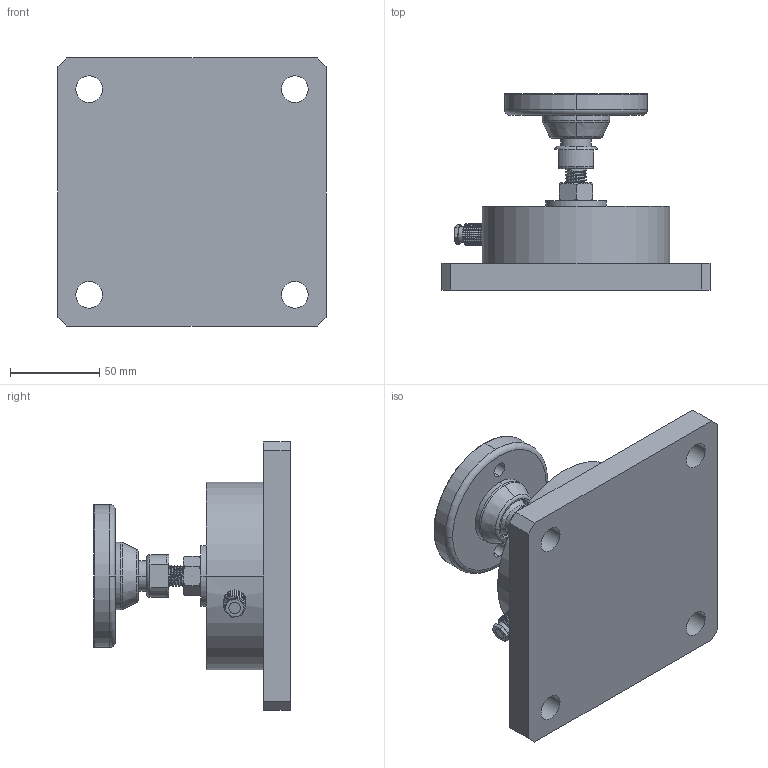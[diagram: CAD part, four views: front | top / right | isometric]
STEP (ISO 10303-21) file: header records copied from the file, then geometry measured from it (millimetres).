
FILE_DESCRIPTION((''),'1');
FILE_NAME('LMLAQ.step','2023-04-14T14:30:12',(''),(''),'','','');
FILE_SCHEMA(('AUTOMOTIVE_DESIGN { 1 0 10303 214 1 1 1 1 }'));
Products named in the file (15): LMLAQ part 01; LMLAQ part 03; LMLAQ part 05; LMLAQ part 06; LMLAQ O-ring 01; LMLAQ part 07; LMLAQ connector 01; LMLAQ; LMLAQ nut 01; LMLAQ part 08; LMLAQ part 09; LMLAQ load cell 01; LMLAQ body 01; LMLAQ cable gland 01; LMLAQ plate 01
Assembly tree (22 placements, depth 4):
  LMLAQ
    LMLAQ connector 01
      LMLAQ part 01
        LMLAQ part 03
        LMLAQ part 05
        LMLAQ part 06
        LMLAQ O-ring 01
        LMLAQ part 07
    LMLAQ nut 01
    LMLAQ load cell 01
      LMLAQ part 08
        LMLAQ part 09  x9
      LMLAQ body 01
      LMLAQ cable gland 01
      LMLAQ plate 01
Bounding box: 150 x 110 x 150 mm (x, y, z)
Volume: 672342.2 mm3; surface area: 129148.3 mm2
Topology: 18 solids, 18 shells, 748 faces, 1737 edges, 1040 vertices
Faces by surface type: cone 231, plane 203, cylinder 200, torus 106, bspline 5, sphere 2, offset 1
Entity records: 565336 total; most frequent: CARTESIAN_POINT 554977, DIRECTION 2202, ORIENTED_EDGE 1990, EDGE_CURVE 995, AXIS2_PLACEMENT_3D 934, VERTEX_POINT 616, EDGE_LOOP 507, CIRCLE 471
